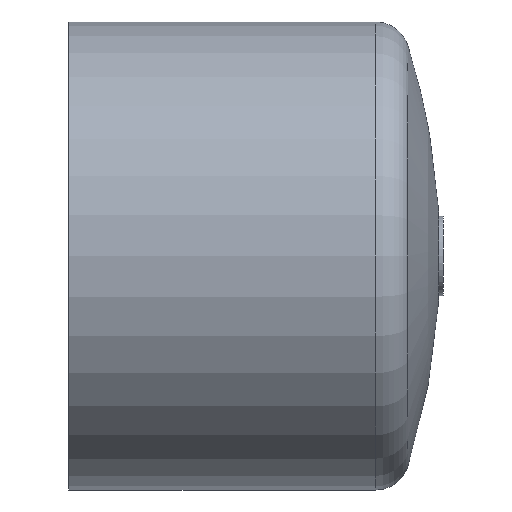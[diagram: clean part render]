
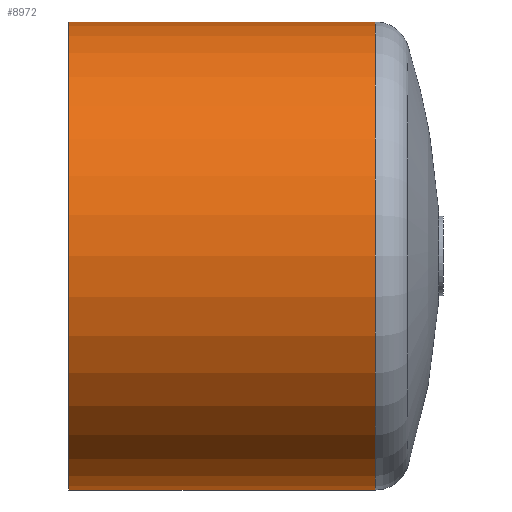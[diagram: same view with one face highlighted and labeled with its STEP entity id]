
A CAD part, front view. The second image highlights one B-rep face of the part: STEP entity #8972.
In plain terms, the highlighted cylindrical face has radius 100 mm (diameter 200 mm), a full revolution.
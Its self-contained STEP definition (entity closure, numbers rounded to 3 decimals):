
#499=CYLINDRICAL_SURFACE('',#9836,100.);
#2145=ORIENTED_EDGE('',*,*,#5103,.T.);
#2146=ORIENTED_EDGE('',*,*,#5102,.F.);
#5102=EDGE_CURVE('',#6562,#6562,#6960,.T.);
#5103=EDGE_CURVE('',#6563,#6563,#6961,.T.);
#6562=VERTEX_POINT('',#15267);
#6563=VERTEX_POINT('',#15270);
#6960=CIRCLE('',#9835,100.);
#6961=CIRCLE('',#9837,100.);
#7594=EDGE_LOOP('',(#2145));
#7595=EDGE_LOOP('',(#2146));
#8270=FACE_BOUND('',#7594,.T.);
#8271=FACE_BOUND('',#7595,.T.);
#8972=ADVANCED_FACE('',(#8270,#8271),#499,.T.);
#9835=AXIS2_PLACEMENT_3D('',#15266,#11028,#11029);
#9836=AXIS2_PLACEMENT_3D('',#15268,#11030,#11031);
#9837=AXIS2_PLACEMENT_3D('',#15269,#11032,#11033);
#11028=DIRECTION('',(-1.,0.,0.));
#11029=DIRECTION('',(0.,0.,1.));
#11030=DIRECTION('',(-1.,0.,0.));
#11031=DIRECTION('',(0.,0.,1.));
#11032=DIRECTION('',(-1.,0.,0.));
#11033=DIRECTION('',(0.,0.,1.));
#15266=CARTESIAN_POINT('',(0.,0.,0.));
#15267=CARTESIAN_POINT('',(0.,0.,100.));
#15268=CARTESIAN_POINT('',(60.,0.,0.));
#15269=CARTESIAN_POINT('',(131.,0.,0.));
#15270=CARTESIAN_POINT('',(131.,0.,100.));
